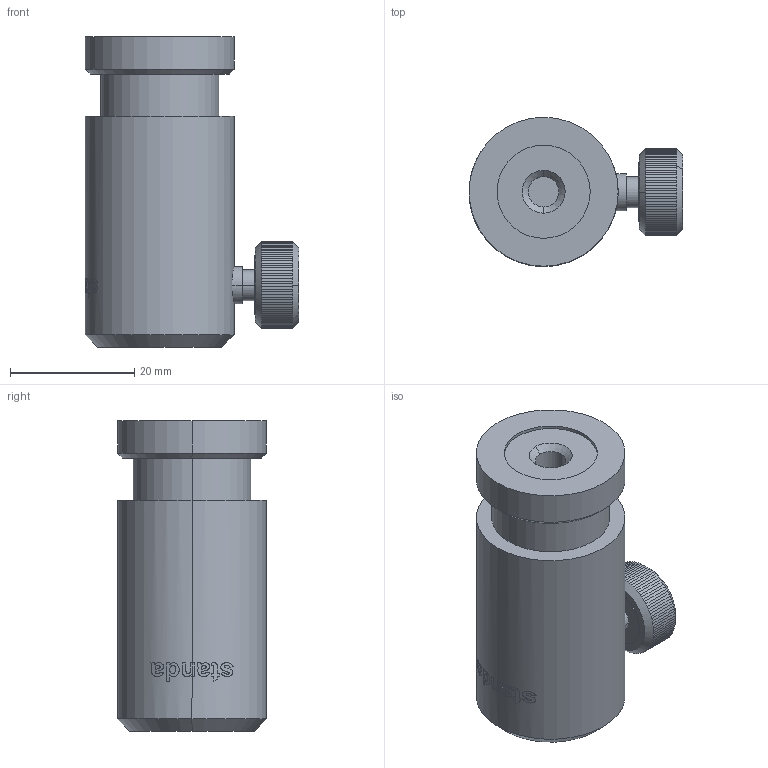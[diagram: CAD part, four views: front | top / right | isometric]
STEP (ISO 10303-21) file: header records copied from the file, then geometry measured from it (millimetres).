
FILE_DESCRIPTION (( 'STEP AP203' ), '1' );
FILE_NAME ('3PHB-50.STEP', '2009-11-18T14:11:16', ( 'Darius' ), ( '' ), 'SwSTEP 2.0', 'SolidWorks 2003240', '' );
FILE_SCHEMA (( 'CONFIG_CONTROL_DESIGN' ));
Length unit declared in the file: millimetre
Products named in the file (1): 3PHB-50
Bounding box: 34.42 x 24 x 50 mm (x, y, z)
Volume: 18625.4 mm3; surface area: 6888 mm2
Topology: 1 solids, 1 shells, 288 faces, 779 edges, 509 vertices
Faces by surface type: plane 167, bspline 69, cylinder 35, cone 17
Entity records: 11177 total; most frequent: CARTESIAN_POINT 4707, ORIENTED_EDGE 1554, DIRECTION 960, EDGE_CURVE 777, VERTEX_POINT 509, B_SPLINE_CURVE_WITH_KNOTS 349, AXIS2_PLACEMENT_3D 324, LINE 312
